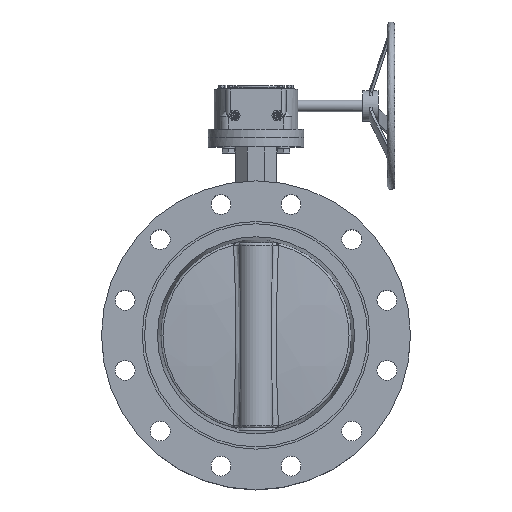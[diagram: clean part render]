
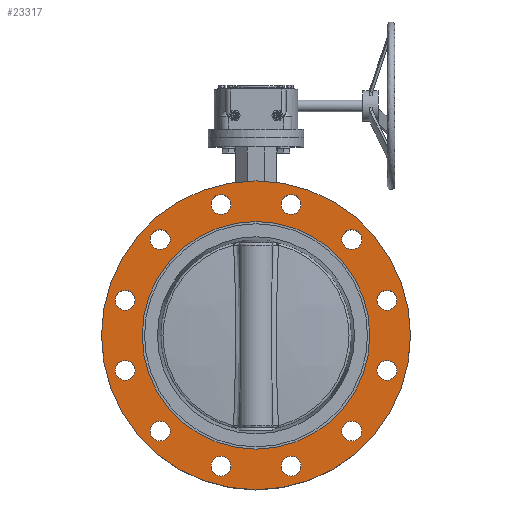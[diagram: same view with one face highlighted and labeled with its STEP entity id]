
A CAD part, top view. The second image highlights one B-rep face of the part: STEP entity #23317.
In plain terms, the highlighted planar face has unit normal (0, 0, -1).
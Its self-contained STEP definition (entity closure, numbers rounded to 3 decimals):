
#685 = AXIS2_PLACEMENT_3D ( 'NONE', #60578, #28493, #13559 ) ;
#969 = EDGE_CURVE ( 'NONE', #27069, #27069, #45440, .T. ) ;
#1106 = EDGE_LOOP ( 'NONE', ( #34339 ) ) ;
#1636 = CARTESIAN_POINT ( 'NONE',  ( 58.94, 171.452, 79.5 ) ) ;
#1743 = ORIENTED_EDGE ( 'NONE', *, *, #35132, .T. ) ;
#2146 = CARTESIAN_POINT ( 'NONE',  ( -125.511, 125.511, 79.5 ) ) ;
#2826 = CIRCLE ( 'NONE', #38262, 13. ) ;
#3544 = CARTESIAN_POINT ( 'NONE',  ( -112.511, 125.511, 79.5 ) ) ;
#3676 = FACE_OUTER_BOUND ( 'NONE', #45085, .T. ) ;
#4100 = DIRECTION ( 'NONE',  ( 1., 0., 0. ) ) ;
#4544 = CIRCLE ( 'NONE', #12620, 13. ) ;
#5498 = DIRECTION ( 'NONE',  ( 1., 0., 0. ) ) ;
#5767 = DIRECTION ( 'NONE',  ( 0., 0., 1. ) ) ;
#5782 = VERTEX_POINT ( 'NONE', #10833 ) ;
#6089 = CARTESIAN_POINT ( 'NONE',  ( 184.452, -45.94, 79.5 ) ) ;
#6689 = VERTEX_POINT ( 'NONE', #54268 ) ;
#8351 = EDGE_LOOP ( 'NONE', ( #44722 ) ) ;
#8505 = DIRECTION ( 'NONE',  ( 1., 0., 0. ) ) ;
#9009 = AXIS2_PLACEMENT_3D ( 'NONE', #16582, #38771, #48242 ) ;
#9022 = CARTESIAN_POINT ( 'NONE',  ( -149.2, 0., 79.5 ) ) ;
#9025 = ORIENTED_EDGE ( 'NONE', *, *, #10983, .T. ) ;
#9646 = FACE_BOUND ( 'NONE', #10104, .T. ) ;
#9937 = DIRECTION ( 'NONE',  ( 0., 0., 1. ) ) ;
#10104 = EDGE_LOOP ( 'NONE', ( #29661 ) ) ;
#10833 = CARTESIAN_POINT ( 'NONE',  ( 58.94, -171.452, 79.5 ) ) ;
#10983 = EDGE_CURVE ( 'NONE', #61610, #61610, #56475, .T. ) ;
#11040 = EDGE_CURVE ( 'NONE', #28327, #28327, #13982, .T. ) ;
#11165 = EDGE_LOOP ( 'NONE', ( #48150 ) ) ;
#11626 = AXIS2_PLACEMENT_3D ( 'NONE', #13682, #5767, #33708 ) ;
#11785 = CARTESIAN_POINT ( 'NONE',  ( 45.94, 171.452, 79.5 ) ) ;
#11903 = AXIS2_PLACEMENT_3D ( 'NONE', #9022, #28392, #47692 ) ;
#12418 = DIRECTION ( 'NONE',  ( 1., 0., 0. ) ) ;
#12620 = AXIS2_PLACEMENT_3D ( 'NONE', #22865, #61213, #42176 ) ;
#12679 = CARTESIAN_POINT ( 'NONE',  ( 125.511, -125.511, 79.5 ) ) ;
#13024 = DIRECTION ( 'NONE',  ( 0., 0., 1. ) ) ;
#13028 = VERTEX_POINT ( 'NONE', #3544 ) ;
#13230 = AXIS2_PLACEMENT_3D ( 'NONE', #56474, #13024, #32396 ) ;
#13448 = DIRECTION ( 'NONE',  ( 0., 0., -1. ) ) ;
#13559 = DIRECTION ( 'NONE',  ( 1., 0., 0. ) ) ;
#13682 = CARTESIAN_POINT ( 'NONE',  ( -45.94, -171.452, 79.5 ) ) ;
#13932 = AXIS2_PLACEMENT_3D ( 'NONE', #41694, #13448, #42314 ) ;
#13982 = CIRCLE ( 'NONE', #44375, 13. ) ;
#14197 = DIRECTION ( 'NONE',  ( 0., 0., 1. ) ) ;
#15432 = AXIS2_PLACEMENT_3D ( 'NONE', #53357, #9937, #5498 ) ;
#15879 = VERTEX_POINT ( 'NONE', #6089 ) ;
#16582 = CARTESIAN_POINT ( 'NONE',  ( 0., 0., 79.5 ) ) ;
#16606 = EDGE_CURVE ( 'NONE', #24502, #24502, #54529, .T. ) ;
#17585 = EDGE_LOOP ( 'NONE', ( #61495 ) ) ;
#18037 = DIRECTION ( 'NONE',  ( 0., 0., 1. ) ) ;
#18096 = VERTEX_POINT ( 'NONE', #36842 ) ;
#18237 = FACE_BOUND ( 'NONE', #24389, .T. ) ;
#18698 = DIRECTION ( 'NONE',  ( 0., 0., 1. ) ) ;
#19138 = DIRECTION ( 'NONE',  ( 0., 0., 1. ) ) ;
#19180 = FACE_BOUND ( 'NONE', #1106, .T. ) ;
#19229 = EDGE_CURVE ( 'NONE', #29876, #29876, #34124, .T. ) ;
#19677 = AXIS2_PLACEMENT_3D ( 'NONE', #52234, #18037, #8505 ) ;
#21292 = ORIENTED_EDGE ( 'NONE', *, *, #47603, .T. ) ;
#21302 = VERTEX_POINT ( 'NONE', #45682 ) ;
#21371 = EDGE_LOOP ( 'NONE', ( #1743 ) ) ;
#22070 = CIRCLE ( 'NONE', #13932, 202.5 ) ;
#22283 = DIRECTION ( 'NONE',  ( 0., 0., 1. ) ) ;
#22865 = CARTESIAN_POINT ( 'NONE',  ( 171.452, -45.94, 79.5 ) ) ;
#23317 = ADVANCED_FACE ( 'NONE', ( #42024, #32539, #27772, #62316, #56927, #47381, #52117, #38532, #19180, #61683, #9646, #18237, #3676, #48004 ), #52422, .T. ) ;
#23656 = AXIS2_PLACEMENT_3D ( 'NONE', #33898, #14197, #4100 ) ;
#24389 = EDGE_LOOP ( 'NONE', ( #21292 ) ) ;
#24502 = VERTEX_POINT ( 'NONE', #53650 ) ;
#25117 = CARTESIAN_POINT ( 'NONE',  ( -32.94, 171.452, 79.5 ) ) ;
#25469 = ORIENTED_EDGE ( 'NONE', *, *, #30852, .T. ) ;
#26791 = CIRCLE ( 'NONE', #27860, 13. ) ;
#27069 = VERTEX_POINT ( 'NONE', #42582 ) ;
#27772 = FACE_BOUND ( 'NONE', #36548, .T. ) ;
#27860 = AXIS2_PLACEMENT_3D ( 'NONE', #2146, #30392, #59521 ) ;
#28327 = VERTEX_POINT ( 'NONE', #47628 ) ;
#28392 = DIRECTION ( 'NONE',  ( 0., 0., -1. ) ) ;
#28493 = DIRECTION ( 'NONE',  ( 0., 0., 1. ) ) ;
#29450 = ORIENTED_EDGE ( 'NONE', *, *, #45869, .T. ) ;
#29620 = EDGE_CURVE ( 'NONE', #45052, #45052, #44592, .T. ) ;
#29661 = ORIENTED_EDGE ( 'NONE', *, *, #19229, .T. ) ;
#29876 = VERTEX_POINT ( 'NONE', #48565 ) ;
#30392 = DIRECTION ( 'NONE',  ( 0., 0., 1. ) ) ;
#30513 = VERTEX_POINT ( 'NONE', #1636 ) ;
#30852 = EDGE_CURVE ( 'NONE', #6689, #6689, #2826, .T. ) ;
#32011 = EDGE_CURVE ( 'NONE', #30513, #30513, #54337, .T. ) ;
#32396 = DIRECTION ( 'NONE',  ( 1., 0., 0. ) ) ;
#32539 = FACE_BOUND ( 'NONE', #61497, .T. ) ;
#33545 = DIRECTION ( 'NONE',  ( 1., 0., 0. ) ) ;
#33708 = DIRECTION ( 'NONE',  ( 1., 0., 0. ) ) ;
#33898 = CARTESIAN_POINT ( 'NONE',  ( 125.511, 125.511, 79.5 ) ) ;
#34124 = CIRCLE ( 'NONE', #685, 13. ) ;
#34339 = ORIENTED_EDGE ( 'NONE', *, *, #11040, .T. ) ;
#34380 = ORIENTED_EDGE ( 'NONE', *, *, #59077, .T. ) ;
#34958 = CARTESIAN_POINT ( 'NONE',  ( -158.452, 45.94, 79.5 ) ) ;
#35132 = EDGE_CURVE ( 'NONE', #15879, #15879, #4544, .T. ) ;
#36207 = VERTEX_POINT ( 'NONE', #34958 ) ;
#36548 = EDGE_LOOP ( 'NONE', ( #34380 ) ) ;
#36842 = CARTESIAN_POINT ( 'NONE',  ( -202.5, 0., 79.5 ) ) ;
#38262 = AXIS2_PLACEMENT_3D ( 'NONE', #43227, #19138, #38491 ) ;
#38491 = DIRECTION ( 'NONE',  ( 1., 0., 0. ) ) ;
#38532 = FACE_BOUND ( 'NONE', #11165, .T. ) ;
#38603 = DIRECTION ( 'NONE',  ( 0., 0., 1. ) ) ;
#38771 = DIRECTION ( 'NONE',  ( 0., 0., 1. ) ) ;
#38815 = EDGE_LOOP ( 'NONE', ( #41529 ) ) ;
#41180 = AXIS2_PLACEMENT_3D ( 'NONE', #11785, #22283, #12418 ) ;
#41477 = EDGE_LOOP ( 'NONE', ( #29450 ) ) ;
#41529 = ORIENTED_EDGE ( 'NONE', *, *, #969, .T. ) ;
#41694 = CARTESIAN_POINT ( 'NONE',  ( 0., 0., 79.5 ) ) ;
#42024 = FACE_BOUND ( 'NONE', #17585, .T. ) ;
#42176 = DIRECTION ( 'NONE',  ( 1., 0., 0. ) ) ;
#42314 = DIRECTION ( 'NONE',  ( -1., 0., 0. ) ) ;
#42582 = CARTESIAN_POINT ( 'NONE',  ( -149.2, 0., 79.5 ) ) ;
#43227 = CARTESIAN_POINT ( 'NONE',  ( -171.452, -45.94, 79.5 ) ) ;
#43959 = CIRCLE ( 'NONE', #19677, 13. ) ;
#44375 = AXIS2_PLACEMENT_3D ( 'NONE', #12679, #18698, #52270 ) ;
#44592 = CIRCLE ( 'NONE', #13230, 13. ) ;
#44722 = ORIENTED_EDGE ( 'NONE', *, *, #16606, .T. ) ;
#45052 = VERTEX_POINT ( 'NONE', #25117 ) ;
#45085 = EDGE_LOOP ( 'NONE', ( #58077 ) ) ;
#45440 = CIRCLE ( 'NONE', #9009, 149.2 ) ;
#45682 = CARTESIAN_POINT ( 'NONE',  ( 138.511, 125.511, 79.5 ) ) ;
#45869 = EDGE_CURVE ( 'NONE', #36207, #36207, #62037, .T. ) ;
#47381 = FACE_BOUND ( 'NONE', #56089, .T. ) ;
#47603 = EDGE_CURVE ( 'NONE', #21302, #21302, #47920, .T. ) ;
#47628 = CARTESIAN_POINT ( 'NONE',  ( 138.511, -125.511, 79.5 ) ) ;
#47692 = DIRECTION ( 'NONE',  ( -1., 0., 0. ) ) ;
#47920 = CIRCLE ( 'NONE', #23656, 13. ) ;
#48004 = FACE_BOUND ( 'NONE', #38815, .T. ) ;
#48150 = ORIENTED_EDGE ( 'NONE', *, *, #49429, .T. ) ;
#48242 = DIRECTION ( 'NONE',  ( -1., 0., 0. ) ) ;
#48565 = CARTESIAN_POINT ( 'NONE',  ( 184.452, 45.94, 79.5 ) ) ;
#48686 = CARTESIAN_POINT ( 'NONE',  ( -125.511, -125.511, 79.5 ) ) ;
#49429 = EDGE_CURVE ( 'NONE', #5782, #5782, #43959, .T. ) ;
#50535 = ORIENTED_EDGE ( 'NONE', *, *, #29620, .T. ) ;
#51107 = CARTESIAN_POINT ( 'NONE',  ( -112.511, -125.511, 79.5 ) ) ;
#52117 = FACE_BOUND ( 'NONE', #8351, .T. ) ;
#52234 = CARTESIAN_POINT ( 'NONE',  ( 45.94, -171.452, 79.5 ) ) ;
#52270 = DIRECTION ( 'NONE',  ( 1., 0., 0. ) ) ;
#52422 = PLANE ( 'NONE',  #11903 ) ;
#53357 = CARTESIAN_POINT ( 'NONE',  ( -171.452, 45.94, 79.5 ) ) ;
#53650 = CARTESIAN_POINT ( 'NONE',  ( -32.94, -171.452, 79.5 ) ) ;
#54212 = EDGE_CURVE ( 'NONE', #18096, #18096, #22070, .T. ) ;
#54268 = CARTESIAN_POINT ( 'NONE',  ( -158.452, -45.94, 79.5 ) ) ;
#54328 = EDGE_LOOP ( 'NONE', ( #25469 ) ) ;
#54337 = CIRCLE ( 'NONE', #41180, 13. ) ;
#54529 = CIRCLE ( 'NONE', #11626, 13. ) ;
#56089 = EDGE_LOOP ( 'NONE', ( #9025 ) ) ;
#56474 = CARTESIAN_POINT ( 'NONE',  ( -45.94, 171.452, 79.5 ) ) ;
#56475 = CIRCLE ( 'NONE', #58547, 13. ) ;
#56927 = FACE_BOUND ( 'NONE', #54328, .T. ) ;
#58077 = ORIENTED_EDGE ( 'NONE', *, *, #54212, .T. ) ;
#58547 = AXIS2_PLACEMENT_3D ( 'NONE', #48686, #38603, #33545 ) ;
#59077 = EDGE_CURVE ( 'NONE', #13028, #13028, #26791, .T. ) ;
#59521 = DIRECTION ( 'NONE',  ( 1., 0., 0. ) ) ;
#60578 = CARTESIAN_POINT ( 'NONE',  ( 171.452, 45.94, 79.5 ) ) ;
#61213 = DIRECTION ( 'NONE',  ( 0., 0., 1. ) ) ;
#61495 = ORIENTED_EDGE ( 'NONE', *, *, #32011, .T. ) ;
#61497 = EDGE_LOOP ( 'NONE', ( #50535 ) ) ;
#61610 = VERTEX_POINT ( 'NONE', #51107 ) ;
#61683 = FACE_BOUND ( 'NONE', #21371, .T. ) ;
#62037 = CIRCLE ( 'NONE', #15432, 13. ) ;
#62316 = FACE_BOUND ( 'NONE', #41477, .T. ) ;
